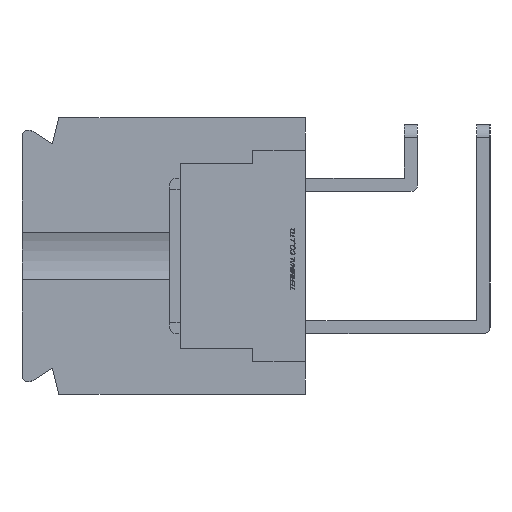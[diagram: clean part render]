
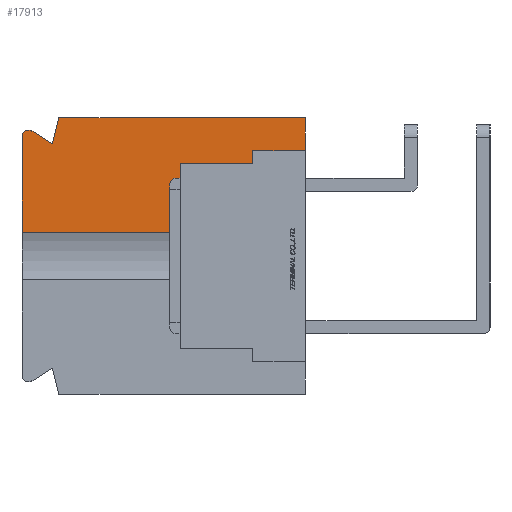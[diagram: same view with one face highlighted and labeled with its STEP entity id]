
A CAD part, left-side view. The second image highlights one B-rep face of the part: STEP entity #17913.
In plain terms, the highlighted planar face has unit normal (-1, 0, 0).
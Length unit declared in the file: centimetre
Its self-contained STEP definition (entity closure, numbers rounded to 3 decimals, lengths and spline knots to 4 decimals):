
#841=CIRCLE('',#30119,0.05);
#1099=VERTEX_POINT('',#23390);
#1100=VERTEX_POINT('',#23392);
#1900=VERTEX_POINT('',#25911);
#1901=VERTEX_POINT('',#25913);
#1906=VERTEX_POINT('',#25924);
#1908=VERTEX_POINT('',#25930);
#1910=VERTEX_POINT('',#25936);
#1911=VERTEX_POINT('',#25943);
#1912=VERTEX_POINT('',#25945);
#1913=VERTEX_POINT('',#25947);
#1914=VERTEX_POINT('',#25949);
#2960=VECTOR('',#19506,1.);
#3870=VECTOR('',#21390,1.);
#3875=VECTOR('',#21404,1.);
#3878=VECTOR('',#21408,1.);
#3881=VECTOR('',#21412,1.);
#3882=VECTOR('',#21414,1.);
#3883=VECTOR('',#21415,1.);
#3884=VECTOR('',#21416,1.);
#3885=VECTOR('',#21417,1.);
#3886=VECTOR('',#21418,1.);
#5083=LINE('',#23391,#2960);
#5993=LINE('',#25912,#3870);
#5998=LINE('',#25929,#3875);
#6001=LINE('',#25935,#3878);
#6004=LINE('',#25940,#3881);
#6005=LINE('',#25942,#3882);
#6006=LINE('',#25944,#3883);
#6007=LINE('',#25946,#3884);
#6008=LINE('',#25948,#3885);
#6009=LINE('',#25950,#3886);
#7246=EDGE_CURVE('',#1099,#1100,#5083,.T.);
#8453=EDGE_CURVE('',#1900,#1901,#5993,.T.);
#8460=EDGE_CURVE('',#1901,#1906,#841,.T.);
#8463=EDGE_CURVE('',#1906,#1908,#5998,.T.);
#8466=EDGE_CURVE('',#1908,#1910,#6001,.T.);
#8469=EDGE_CURVE('',#1910,#1099,#6004,.T.);
#8470=EDGE_CURVE('',#1911,#1100,#6005,.T.);
#8471=EDGE_CURVE('',#1900,#1912,#6006,.T.);
#8472=EDGE_CURVE('',#1912,#1913,#6007,.T.);
#8473=EDGE_CURVE('',#1913,#1914,#6008,.T.);
#8474=EDGE_CURVE('',#1914,#1911,#6009,.T.);
#12592=ORIENTED_EDGE('',*,*,#8470,.T.);
#12593=ORIENTED_EDGE('',*,*,#7246,.F.);
#12594=ORIENTED_EDGE('',*,*,#8469,.F.);
#12595=ORIENTED_EDGE('',*,*,#8466,.F.);
#12596=ORIENTED_EDGE('',*,*,#8463,.F.);
#12597=ORIENTED_EDGE('',*,*,#8460,.F.);
#12598=ORIENTED_EDGE('',*,*,#8453,.F.);
#12599=ORIENTED_EDGE('',*,*,#8471,.T.);
#12600=ORIENTED_EDGE('',*,*,#8472,.T.);
#12601=ORIENTED_EDGE('',*,*,#8473,.T.);
#12602=ORIENTED_EDGE('',*,*,#8474,.T.);
#15738=EDGE_LOOP('',(#12592,#12593,#12594,#12595,#12596,#12597,#12598,#12599,
#12600,#12601,#12602));
#16856=FACE_BOUND('',#15738,.T.);
#17913=ADVANCED_FACE('',(#16856),#18780,.F.);
#18780=PLANE('',#30123);
#19506=DIRECTION('',(0.,0.,-1.));
#21390=DIRECTION('',(0.,0.,1.));
#21399=DIRECTION('',(1.,0.,0.));
#21400=DIRECTION('',(0.,0.,-0.05));
#21404=DIRECTION('',(0.,-0.844,-0.536));
#21408=DIRECTION('',(0.,-0.243,0.97));
#21412=DIRECTION('',(0.,-1.,0.));
#21413=DIRECTION('',(1.,0.,0.));
#21414=DIRECTION('',(0.,-1.,0.));
#21415=DIRECTION('',(0.,-1.,0.));
#21416=DIRECTION('',(0.,0.,1.));
#21417=DIRECTION('',(0.,-1.,0.));
#21418=DIRECTION('',(0.,0.,1.));
#23390=CARTESIAN_POINT('',(-1.1,0.,1.05));
#23391=CARTESIAN_POINT('',(-1.1,0.,1.05));
#23392=CARTESIAN_POINT('',(-1.1,0.,0.8));
#25911=CARTESIAN_POINT('',(-1.1,2.15,0.1809));
#25912=CARTESIAN_POINT('',(-1.1,2.15,-0.905));
#25913=CARTESIAN_POINT('',(-1.1,2.15,0.905));
#25923=CARTESIAN_POINT('',(-1.1,2.1,0.905));
#25924=CARTESIAN_POINT('',(-1.1,2.0742,0.9478));
#25929=CARTESIAN_POINT('',(-1.1,2.0742,0.9478));
#25930=CARTESIAN_POINT('',(-1.1,1.92,0.85));
#25935=CARTESIAN_POINT('',(-1.1,1.92,0.85));
#25936=CARTESIAN_POINT('',(-1.1,1.87,1.05));
#25940=CARTESIAN_POINT('',(-1.1,1.87,1.05));
#25941=CARTESIAN_POINT('',(-1.1,1.082,0.));
#25942=CARTESIAN_POINT('',(-1.1,0.641,0.8));
#25943=CARTESIAN_POINT('',(-1.1,0.4,0.8));
#25944=CARTESIAN_POINT('',(-1.1,1.55,0.1809));
#25945=CARTESIAN_POINT('',(-1.1,0.95,0.1809));
#25946=CARTESIAN_POINT('',(-1.1,0.95,0.));
#25947=CARTESIAN_POINT('',(-1.1,0.95,0.7));
#25948=CARTESIAN_POINT('',(-1.1,0.8785,0.7));
#25949=CARTESIAN_POINT('',(-1.1,0.4,0.7));
#25950=CARTESIAN_POINT('',(-1.1,0.4,0.375));
#30119=AXIS2_PLACEMENT_3D('',#25923,#21399,#21400);
#30123=AXIS2_PLACEMENT_3D('',#25941,#21413,$);
